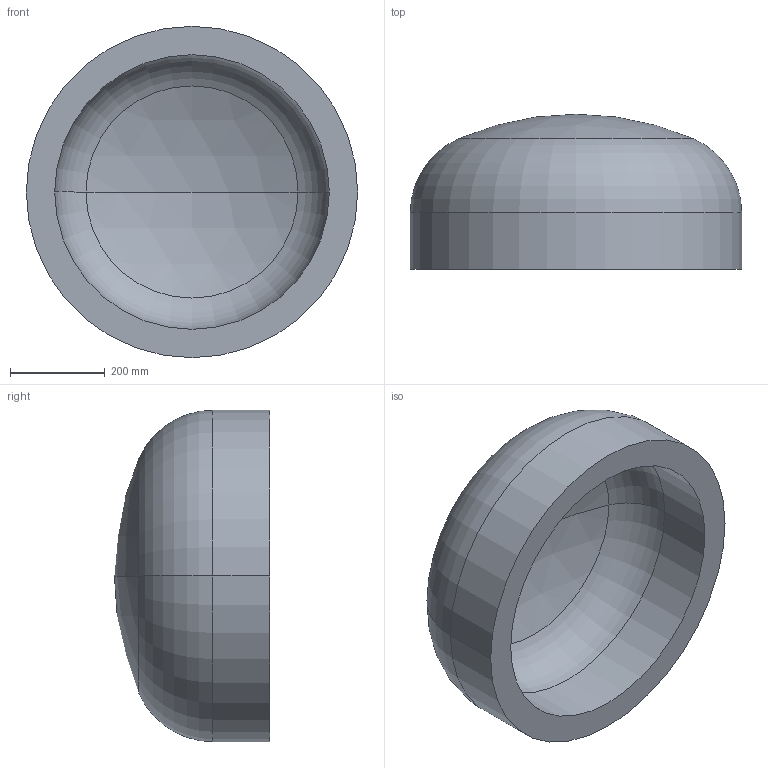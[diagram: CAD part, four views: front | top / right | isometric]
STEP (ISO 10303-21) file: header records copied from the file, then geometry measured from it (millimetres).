
FILE_DESCRIPTION (( 'STEP AP203' ), '1' );
FILE_NAME ('DIN 28013 Korbbogenform_-_Boden DIN 28013 - 700 x 120 - I - s=60.step', '2016-07-01T08:09:28', ( '' ), ( '' ), 'SwSTEP 2.0', 'SolidWorks 2013', '' );
FILE_SCHEMA (( 'CONFIG_CONTROL_DESIGN' ));
Length unit declared in the file: millimetre
Products named in the file (1): DIN 28013 Korbbogenform_-_Boden DIN 28013 - 700 x 120 - I - s=60
Bounding box: 700 x 327.57 x 700 mm (x, y, z)
Volume: 43330831.7 mm3; surface area: 1572537.8 mm2
Topology: 1 solids, 1 shells, 13 faces, 24 edges, 14 vertices
Faces by surface type: torus 4, cylinder 4, sphere 4, plane 1
Entity records: 407 total; most frequent: DIRECTION 72, CARTESIAN_POINT 52, ORIENTED_EDGE 48, AXIS2_PLACEMENT_3D 34, EDGE_CURVE 24, CIRCLE 20, EDGE_LOOP 14, VERTEX_POINT 14
